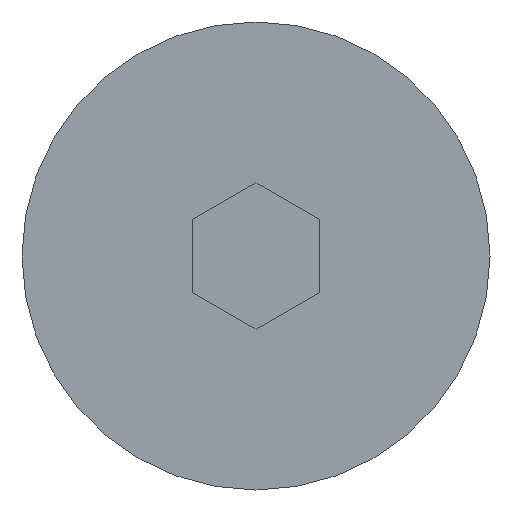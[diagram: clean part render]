
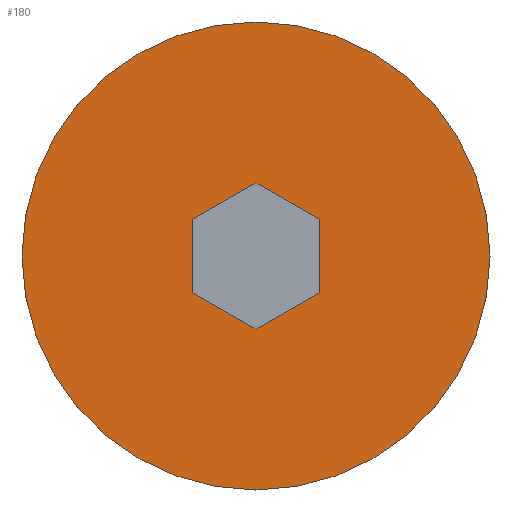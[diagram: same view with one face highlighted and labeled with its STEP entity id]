
A CAD part, left-side view. The second image highlights one B-rep face of the part: STEP entity #180.
In plain terms, the highlighted planar face has unit normal (-1, 0, 0).
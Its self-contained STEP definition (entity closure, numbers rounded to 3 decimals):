
#1 = CARTESIAN_POINT ( 'NONE',  ( 0., -2.165, -1.25 ) ) ;
#14 = DIRECTION ( 'NONE',  ( 0., 0., -1. ) ) ;
#15 = DIRECTION ( 'NONE',  ( 0., -0.866, 0.5 ) ) ;
#16 = CARTESIAN_POINT ( 'NONE',  ( 0., 2.165, -1.25 ) ) ;
#19 = EDGE_CURVE ( 'NONE', #210, #169, #227, .T. ) ;
#20 = CIRCLE ( 'NONE', #502, 8. ) ;
#33 = CARTESIAN_POINT ( 'NONE',  ( 0., -2.165, 1.25 ) ) ;
#55 = EDGE_CURVE ( 'NONE', #133, #462, #312, .T. ) ;
#72 = DIRECTION ( 'NONE',  ( 0., 0., 1. ) ) ;
#74 = ORIENTED_EDGE ( 'NONE', *, *, #320, .T. ) ;
#84 = DIRECTION ( 'NONE',  ( 0., -0.866, -0.5 ) ) ;
#86 = FACE_BOUND ( 'NONE', #360, .T. ) ;
#95 = EDGE_CURVE ( 'NONE', #386, #210, #390, .T. ) ;
#105 = EDGE_CURVE ( 'NONE', #169, #411, #380, .T. ) ;
#115 = CARTESIAN_POINT ( 'NONE',  ( 0., 0., 0. ) ) ;
#128 = CARTESIAN_POINT ( 'NONE',  ( 0., 2.165, 1.25 ) ) ;
#133 = VERTEX_POINT ( 'NONE', #361 ) ;
#134 = CARTESIAN_POINT ( 'NONE',  ( 0., 2.165, -1.25 ) ) ;
#157 = CARTESIAN_POINT ( 'NONE',  ( 0., 0., 0. ) ) ;
#158 = AXIS2_PLACEMENT_3D ( 'NONE', #115, #355, #72 ) ;
#161 = VECTOR ( 'NONE', #84, 1000. ) ;
#164 = ORIENTED_EDGE ( 'NONE', *, *, #95, .F. ) ;
#169 = VERTEX_POINT ( 'NONE', #1 ) ;
#175 = EDGE_CURVE ( 'NONE', #250, #208, #181, .T. ) ;
#180 = ADVANCED_FACE ( 'NONE', ( #86, #185 ), #394, .F. ) ;
#181 = CIRCLE ( 'NONE', #158, 8. ) ;
#185 = FACE_OUTER_BOUND ( 'NONE', #490, .T. ) ;
#203 = EDGE_CURVE ( 'NONE', #411, #133, #261, .T. ) ;
#208 = VERTEX_POINT ( 'NONE', #505 ) ;
#210 = VERTEX_POINT ( 'NONE', #352 ) ;
#211 = VECTOR ( 'NONE', #15, 1000. ) ;
#217 = DIRECTION ( 'NONE',  ( 0., 0.866, -0.5 ) ) ;
#227 = LINE ( 'NONE', #416, #211 ) ;
#239 = DIRECTION ( 'NONE',  ( 1., 0., 0. ) ) ;
#242 = ORIENTED_EDGE ( 'NONE', *, *, #501, .F. ) ;
#247 = DIRECTION ( 'NONE',  ( 0., 0., 1. ) ) ;
#248 = DIRECTION ( 'NONE',  ( 0., 0., 1. ) ) ;
#250 = VERTEX_POINT ( 'NONE', #430 ) ;
#252 = VECTOR ( 'NONE', #217, 1000. ) ;
#255 = CARTESIAN_POINT ( 'NONE',  ( 0., 2.165, 1.25 ) ) ;
#261 = LINE ( 'NONE', #33, #270 ) ;
#270 = VECTOR ( 'NONE', #308, 1000. ) ;
#287 = LINE ( 'NONE', #255, #381 ) ;
#297 = CARTESIAN_POINT ( 'NONE',  ( 0., 0., 2.5 ) ) ;
#308 = DIRECTION ( 'NONE',  ( 0., 0.866, 0.5 ) ) ;
#309 = ORIENTED_EDGE ( 'NONE', *, *, #19, .F. ) ;
#312 = LINE ( 'NONE', #297, #252 ) ;
#320 = EDGE_CURVE ( 'NONE', #208, #250, #20, .T. ) ;
#325 = AXIS2_PLACEMENT_3D ( 'NONE', #437, #239, #354 ) ;
#330 = ORIENTED_EDGE ( 'NONE', *, *, #55, .F. ) ;
#332 = ORIENTED_EDGE ( 'NONE', *, *, #175, .T. ) ;
#343 = ORIENTED_EDGE ( 'NONE', *, *, #105, .F. ) ;
#352 = CARTESIAN_POINT ( 'NONE',  ( 0., 0., -2.5 ) ) ;
#354 = DIRECTION ( 'NONE',  ( 0., 0., -1. ) ) ;
#355 = DIRECTION ( 'NONE',  ( -1., 0., 0. ) ) ;
#360 = EDGE_LOOP ( 'NONE', ( #330, #367, #343, #309, #164, #242 ) ) ;
#361 = CARTESIAN_POINT ( 'NONE',  ( 0., 0., 2.5 ) ) ;
#367 = ORIENTED_EDGE ( 'NONE', *, *, #203, .F. ) ;
#380 = LINE ( 'NONE', #482, #463 ) ;
#381 = VECTOR ( 'NONE', #14, 1000. ) ;
#386 = VERTEX_POINT ( 'NONE', #16 ) ;
#390 = LINE ( 'NONE', #134, #161 ) ;
#394 = PLANE ( 'NONE',  #325 ) ;
#411 = VERTEX_POINT ( 'NONE', #453 ) ;
#416 = CARTESIAN_POINT ( 'NONE',  ( 0., 0., -2.5 ) ) ;
#430 = CARTESIAN_POINT ( 'NONE',  ( 0., 0., -8. ) ) ;
#437 = CARTESIAN_POINT ( 'NONE',  ( 0., 0., 0. ) ) ;
#453 = CARTESIAN_POINT ( 'NONE',  ( 0., -2.165, 1.25 ) ) ;
#462 = VERTEX_POINT ( 'NONE', #128 ) ;
#463 = VECTOR ( 'NONE', #247, 1000. ) ;
#482 = CARTESIAN_POINT ( 'NONE',  ( 0., -2.165, -1.25 ) ) ;
#484 = DIRECTION ( 'NONE',  ( -1., 0., 0. ) ) ;
#490 = EDGE_LOOP ( 'NONE', ( #74, #332 ) ) ;
#501 = EDGE_CURVE ( 'NONE', #462, #386, #287, .T. ) ;
#502 = AXIS2_PLACEMENT_3D ( 'NONE', #157, #484, #248 ) ;
#505 = CARTESIAN_POINT ( 'NONE',  ( 0., 0., 8. ) ) ;
